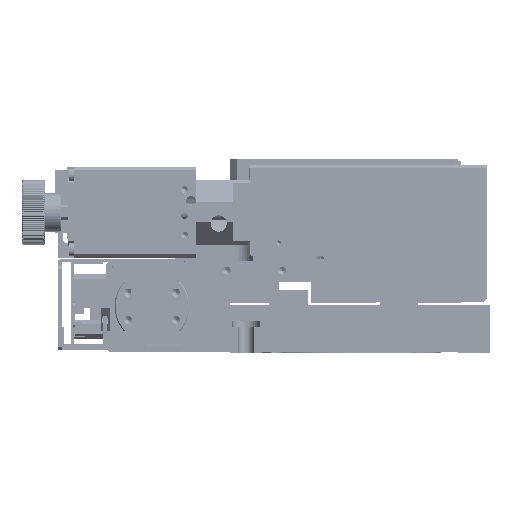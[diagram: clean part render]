
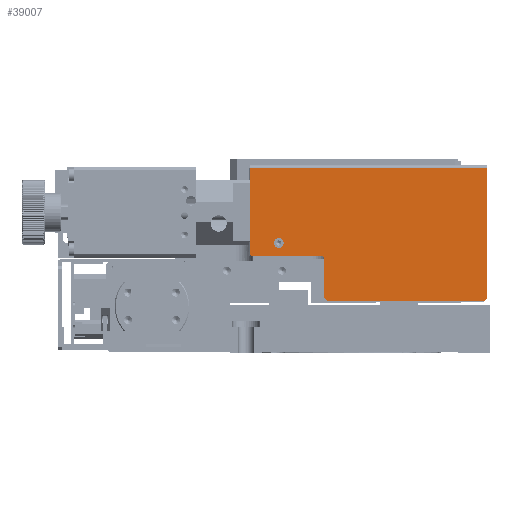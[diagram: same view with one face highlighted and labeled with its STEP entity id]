
A CAD part, left-side view. The second image highlights one B-rep face of the part: STEP entity #39007.
In plain terms, the highlighted planar face has unit normal (-1, 0, 0).
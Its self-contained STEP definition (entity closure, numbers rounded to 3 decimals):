
#1796 = CARTESIAN_POINT ( 'NONE',  ( -72., 14.998, 57. ) ) ;
#5395 = CARTESIAN_POINT ( 'NONE',  ( -72., 29., 16. ) ) ;
#6813 = CARTESIAN_POINT ( 'NONE',  ( -72., 20., 32.5 ) ) ;
#9577 = EDGE_CURVE ( 'NONE', #82150, #59508, #100632, .T. ) ;
#9742 = LINE ( 'NONE', #39663, #102975 ) ;
#13442 = LINE ( 'NONE', #99638, #63025 ) ;
#13909 = CARTESIAN_POINT ( 'NONE',  ( -72., 6., 17. ) ) ;
#15085 = CIRCLE ( 'NONE', #154277, 1. ) ;
#15909 = ORIENTED_EDGE ( 'NONE', *, *, #110628, .T. ) ;
#16517 = ORIENTED_EDGE ( 'NONE', *, *, #9577, .T. ) ;
#16802 = DIRECTION ( 'NONE',  ( -1., 0., 0. ) ) ;
#18950 = VERTEX_POINT ( 'NONE', #100203 ) ;
#22976 = EDGE_CURVE ( 'NONE', #138328, #174366, #127979, .T. ) ;
#30180 = VECTOR ( 'NONE', #181792, 1000. ) ;
#30551 = LINE ( 'NONE', #5395, #65884 ) ;
#31027 = CARTESIAN_POINT ( 'NONE',  ( -72., 7., 29. ) ) ;
#31331 = EDGE_CURVE ( 'NONE', #86055, #165716, #49185, .T. ) ;
#34540 = AXIS2_PLACEMENT_3D ( 'NONE', #39153, #68306, #154496 ) ;
#37337 = ORIENTED_EDGE ( 'NONE', *, *, #120621, .T. ) ;
#39007 = ADVANCED_FACE ( 'NONE', ( #101886, #93854 ), #107406, .F. ) ;
#39153 = CARTESIAN_POINT ( 'NONE',  ( -72., 20., 34. ) ) ;
#39663 = CARTESIAN_POINT ( 'NONE',  ( -72., 6., 30. ) ) ;
#41304 = AXIS2_PLACEMENT_3D ( 'NONE', #62236, #150411, #146627 ) ;
#47012 = CARTESIAN_POINT ( 'NONE',  ( -72., 20., 35.5 ) ) ;
#48135 = EDGE_LOOP ( 'NONE', ( #63494, #97501, #103100, #37337, #180743, #16517, #141500, #121895, #144724, #15909 ) ) ;
#48205 = CIRCLE ( 'NONE', #66827, 1. ) ;
#49185 = LINE ( 'NONE', #123892, #56659 ) ;
#50166 = DIRECTION ( 'NONE',  ( 0., -0.707, 0.707 ) ) ;
#56659 = VECTOR ( 'NONE', #50166, 1000. ) ;
#58222 = DIRECTION ( 'NONE',  ( 1., 0., 0. ) ) ;
#59508 = VERTEX_POINT ( 'NONE', #103440 ) ;
#61543 = DIRECTION ( 'NONE',  ( 0., 1., 0. ) ) ;
#62236 = CARTESIAN_POINT ( 'NONE',  ( -72., 20., 34. ) ) ;
#63025 = VECTOR ( 'NONE', #70588, 1000. ) ;
#63494 = ORIENTED_EDGE ( 'NONE', *, *, #77478, .F. ) ;
#65884 = VECTOR ( 'NONE', #152562, 1000. ) ;
#66827 = AXIS2_PLACEMENT_3D ( 'NONE', #149494, #16802, #160096 ) ;
#68306 = DIRECTION ( 'NONE',  ( 1., 0., 0. ) ) ;
#70588 = DIRECTION ( 'NONE',  ( 0., 0., -1. ) ) ;
#74816 = CIRCLE ( 'NONE', #34540, 1.5 ) ;
#75868 = CARTESIAN_POINT ( 'NONE',  ( -72., 6., 29. ) ) ;
#77478 = EDGE_CURVE ( 'NONE', #170102, #178456, #30551, .T. ) ;
#78405 = DIRECTION ( 'NONE',  ( 0., -1., 0. ) ) ;
#82150 = VERTEX_POINT ( 'NONE', #13909 ) ;
#82903 = VECTOR ( 'NONE', #61543, 1000. ) ;
#86055 = VERTEX_POINT ( 'NONE', #158412 ) ;
#87169 = DIRECTION ( 'NONE',  ( 0., -0.707, -0.707 ) ) ;
#88306 = DIRECTION ( 'NONE',  ( 0., 0., 1. ) ) ;
#92920 = CARTESIAN_POINT ( 'NONE',  ( -72., 14.998, 66.686 ) ) ;
#93300 = DIRECTION ( 'NONE',  ( 0., 0., 1. ) ) ;
#93405 = CARTESIAN_POINT ( 'NONE',  ( -72., -44., 57. ) ) ;
#93854 = FACE_OUTER_BOUND ( 'NONE', #48135, .T. ) ;
#97501 = ORIENTED_EDGE ( 'NONE', *, *, #149201, .T. ) ;
#99638 = CARTESIAN_POINT ( 'NONE',  ( -72., -44., 58. ) ) ;
#100203 = CARTESIAN_POINT ( 'NONE',  ( -72., 28., 30. ) ) ;
#100632 = LINE ( 'NONE', #159671, #181232 ) ;
#100970 = CARTESIAN_POINT ( 'NONE',  ( -72., -44., 17. ) ) ;
#101886 = FACE_BOUND ( 'NONE', #137335, .T. ) ;
#102975 = VECTOR ( 'NONE', #185982, 1000. ) ;
#103100 = ORIENTED_EDGE ( 'NONE', *, *, #106725, .F. ) ;
#103440 = CARTESIAN_POINT ( 'NONE',  ( -72., 5., 16. ) ) ;
#105558 = EDGE_CURVE ( 'NONE', #174366, #138328, #74816, .T. ) ;
#106725 = EDGE_CURVE ( 'NONE', #185118, #18950, #9742, .T. ) ;
#107406 = PLANE ( 'NONE',  #110907 ) ;
#107911 = VERTEX_POINT ( 'NONE', #93405 ) ;
#110628 = EDGE_CURVE ( 'NONE', #107911, #178456, #120925, .T. ) ;
#110907 = AXIS2_PLACEMENT_3D ( 'NONE', #92920, #151918, #78405 ) ;
#113453 = EDGE_CURVE ( 'NONE', #82150, #187547, #150456, .T. ) ;
#120621 = EDGE_CURVE ( 'NONE', #185118, #187547, #15085, .T. ) ;
#120695 = LINE ( 'NONE', #124511, #82903 ) ;
#120925 = LINE ( 'NONE', #1796, #30180 ) ;
#121091 = VECTOR ( 'NONE', #93300, 1000. ) ;
#121895 = ORIENTED_EDGE ( 'NONE', *, *, #31331, .T. ) ;
#123884 = EDGE_CURVE ( 'NONE', #86055, #59508, #120695, .T. ) ;
#123892 = CARTESIAN_POINT ( 'NONE',  ( -72., -43., 16. ) ) ;
#124511 = CARTESIAN_POINT ( 'NONE',  ( -72., -44., 16. ) ) ;
#127979 = CIRCLE ( 'NONE', #41304, 1.5 ) ;
#137335 = EDGE_LOOP ( 'NONE', ( #172507, #162941 ) ) ;
#138328 = VERTEX_POINT ( 'NONE', #47012 ) ;
#141500 = ORIENTED_EDGE ( 'NONE', *, *, #123884, .F. ) ;
#141922 = CARTESIAN_POINT ( 'NONE',  ( -72., 29., 31. ) ) ;
#144724 = ORIENTED_EDGE ( 'NONE', *, *, #173883, .F. ) ;
#146627 = DIRECTION ( 'NONE',  ( 0., 0., 1. ) ) ;
#146864 = CARTESIAN_POINT ( 'NONE',  ( -72., 29., 57. ) ) ;
#149201 = EDGE_CURVE ( 'NONE', #170102, #18950, #48205, .T. ) ;
#149494 = CARTESIAN_POINT ( 'NONE',  ( -72., 28., 31. ) ) ;
#150411 = DIRECTION ( 'NONE',  ( 1., 0., 0. ) ) ;
#150456 = LINE ( 'NONE', #181356, #121091 ) ;
#151918 = DIRECTION ( 'NONE',  ( 1., 0., 0. ) ) ;
#152562 = DIRECTION ( 'NONE',  ( 0., 0., 1. ) ) ;
#154277 = AXIS2_PLACEMENT_3D ( 'NONE', #31027, #58222, #88306 ) ;
#154496 = DIRECTION ( 'NONE',  ( 0., 0., 1. ) ) ;
#157828 = CARTESIAN_POINT ( 'NONE',  ( -72., 7., 30. ) ) ;
#158412 = CARTESIAN_POINT ( 'NONE',  ( -72., -43., 16. ) ) ;
#159671 = CARTESIAN_POINT ( 'NONE',  ( -72., 6., 17. ) ) ;
#160096 = DIRECTION ( 'NONE',  ( 0., 0., 1. ) ) ;
#162941 = ORIENTED_EDGE ( 'NONE', *, *, #22976, .T. ) ;
#165716 = VERTEX_POINT ( 'NONE', #100970 ) ;
#170102 = VERTEX_POINT ( 'NONE', #141922 ) ;
#172507 = ORIENTED_EDGE ( 'NONE', *, *, #105558, .T. ) ;
#173883 = EDGE_CURVE ( 'NONE', #107911, #165716, #13442, .T. ) ;
#174366 = VERTEX_POINT ( 'NONE', #6813 ) ;
#178456 = VERTEX_POINT ( 'NONE', #146864 ) ;
#180743 = ORIENTED_EDGE ( 'NONE', *, *, #113453, .F. ) ;
#181232 = VECTOR ( 'NONE', #87169, 1000. ) ;
#181356 = CARTESIAN_POINT ( 'NONE',  ( -72., 6., 16. ) ) ;
#181792 = DIRECTION ( 'NONE',  ( 0., 1., 0. ) ) ;
#185118 = VERTEX_POINT ( 'NONE', #157828 ) ;
#185982 = DIRECTION ( 'NONE',  ( 0., 1., 0. ) ) ;
#187547 = VERTEX_POINT ( 'NONE', #75868 ) ;
